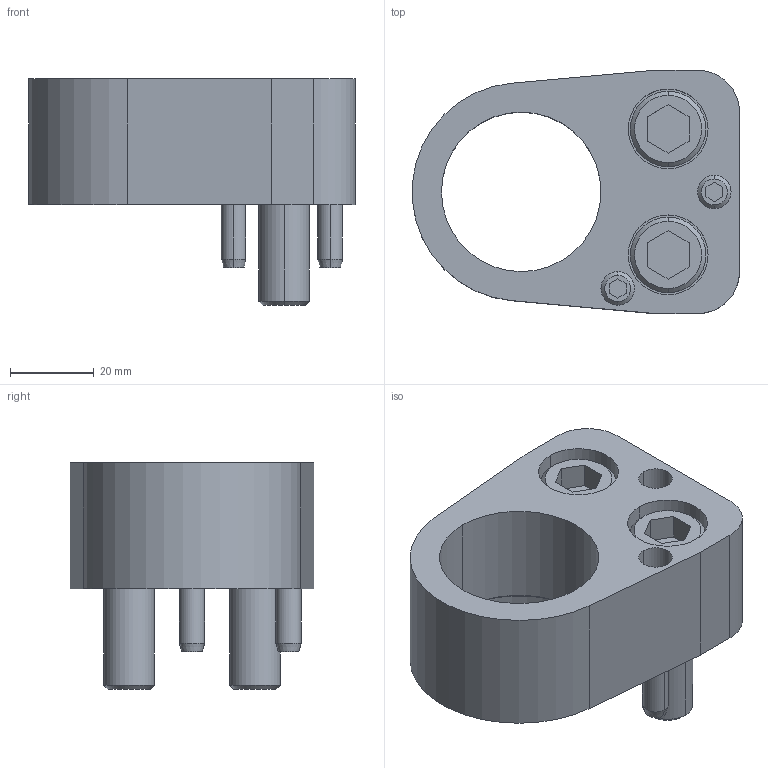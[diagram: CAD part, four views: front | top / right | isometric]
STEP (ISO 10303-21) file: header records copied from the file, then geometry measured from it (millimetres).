
FILE_DESCRIPTION(/* description */ (''),/* implementation_level */ '2;1');
FILE_NAME(/* name */ '3d_dpar38_02800_r00.stp',/* time_stamp */ '2011-01-10T14:15:54+09:00',/* author */ ('MISUMI'),/* organization */ (''),/* preprocessor_version */ 'ST-DEVELOPER v11',/* originating_system */ 'UGS - NX 5.0',/* authorisation */ '');
FILE_SCHEMA (('CONFIG_CONTROL_DESIGN'));
Length unit declared in the file: millimetre
Products named in the file (1): 3d_dpar38_02800_r00
Bounding box: 77.9 x 58 x 54 mm (x, y, z)
Volume: 84637.7 mm3; surface area: 27745.2 mm2
Topology: 7 solids, 7 shells, 135 faces, 292 edges, 186 vertices
Faces by surface type: plane 60, cylinder 49, cone 26
Entity records: 3816 total; most frequent: DIRECTION 684, CARTESIAN_POINT 662, ORIENTED_EDGE 584, EDGE_CURVE 292, AXIS2_PLACEMENT_3D 260, VERTEX_POINT 186, LINE 164, VECTOR 164
